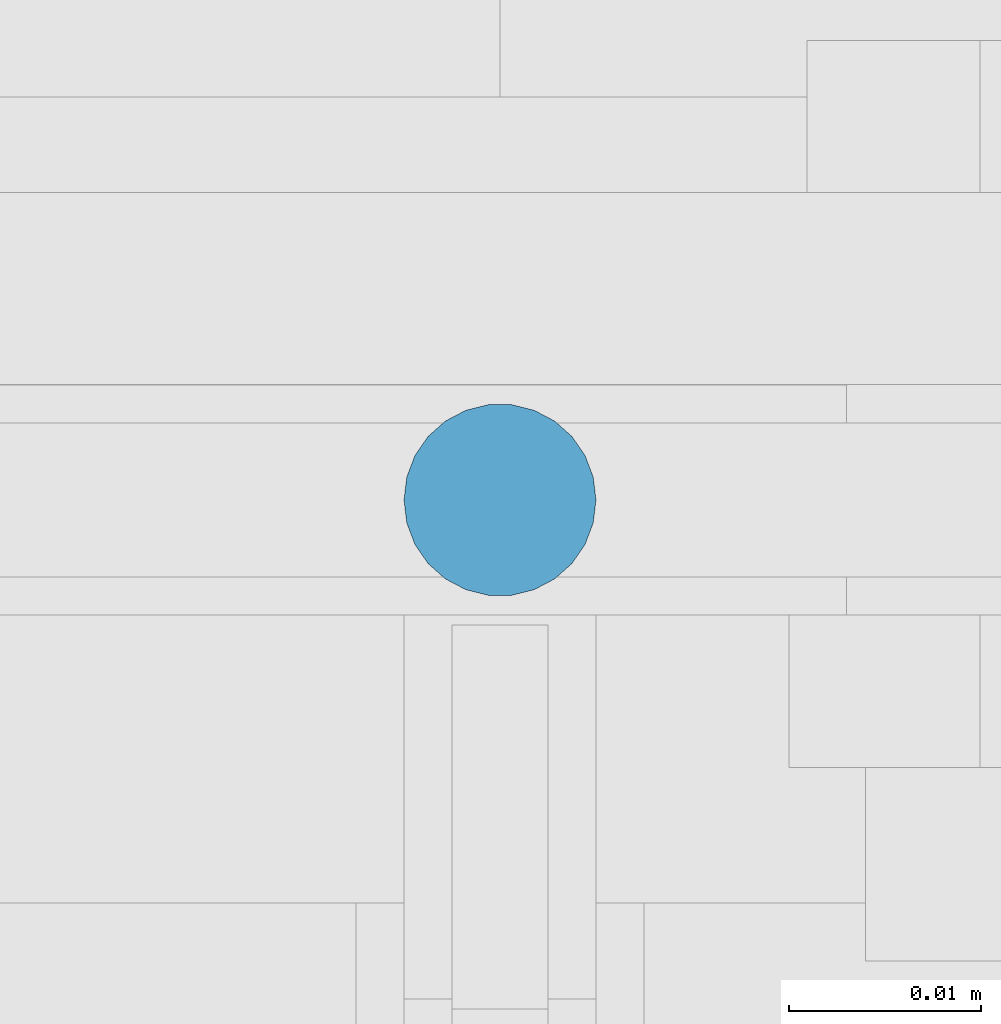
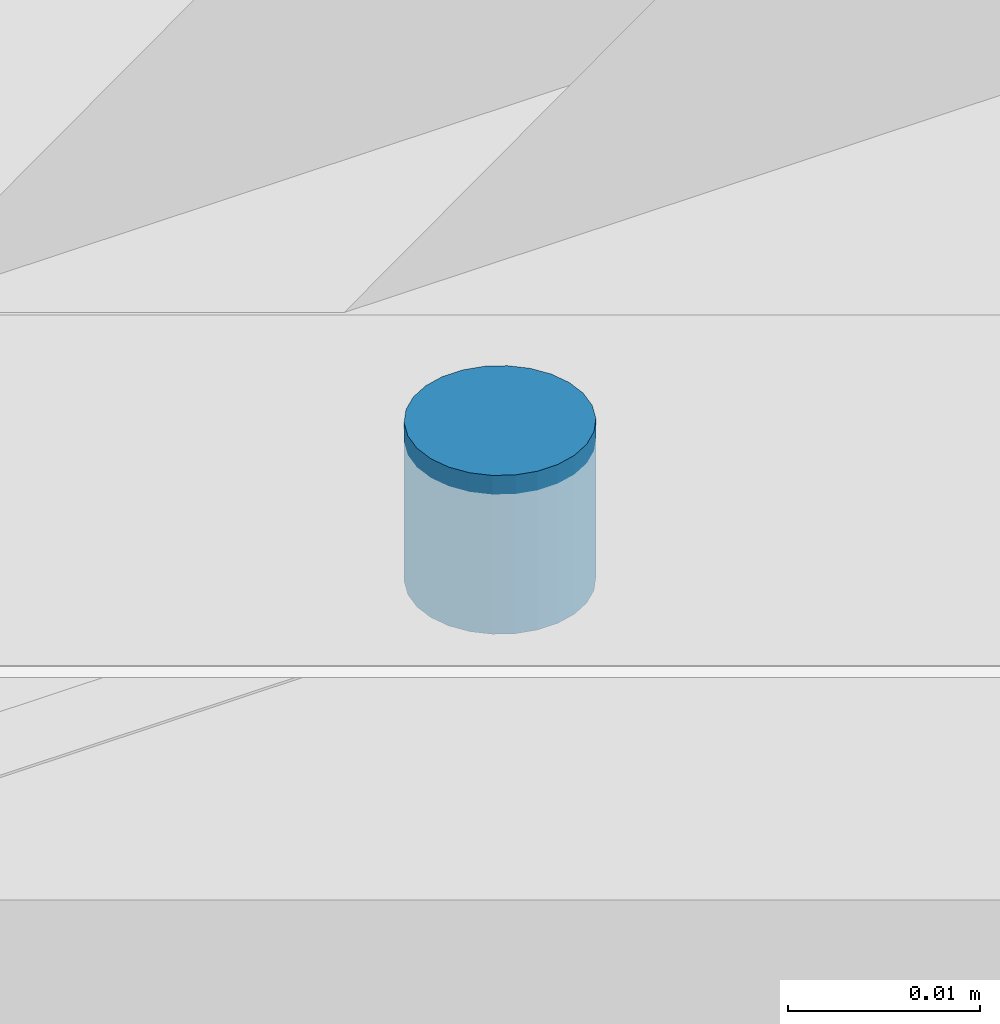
# One storey, part 273 of 362: 1 mechanical fastener.
"""IFC2X3 building model written with IfcOpenShell, lengths in millimetres."""

import ifcopenshell
import ifcopenshell.guid

model = None  # the IFC model being written
_history = None  # IfcOwnerHistory: only IFC2X3 demands one
_inside = {}  # id of a spatial element -> (the spatial element, [elements in it])
_under = {}  # id of a project, library or spatial element -> (it, [spatial elements below it])
_declared = {}  # id of a project -> (the project, [libraries it declares])
_typed = {}  # id of a type object -> (the type object, [elements of that type])
_made_of = {}  # id of a material, layer set ... -> (it, [elements and type objects made of it])


def new_model(schema):
    """Start an empty IFC model of exactly this schema.

    Asked for "IFC4X3", IfcOpenShell would pick the latest addendum, in which some entities
    have other attributes; the version numbers below select the first issue.
    IFC2X3 requires an IfcOwnerHistory on every rooted entity: one is made here for all.
    """
    global model, _history
    if schema == "IFC4X3":
        model = ifcopenshell.file(schema_version=(4, 3, 0, 0))
    else:
        model = ifcopenshell.file(schema=schema)
    _inside.clear()
    _under.clear()
    _declared.clear()
    _typed.clear()
    _made_of.clear()
    _history = None
    if model.schema == "IFC2X3":
        org = make("IfcOrganization", Name="unknown")
        user = make(
            "IfcPersonAndOrganization",
            ThePerson=make("IfcPerson", FamilyName="unknown"),
            TheOrganization=org,
        )
        app = make(
            "IfcApplication",
            ApplicationDeveloper=org,
            Version="unknown",
            ApplicationFullName="unknown",
            ApplicationIdentifier="unknown",
        )
        _history = make(
            "IfcOwnerHistory",
            OwningUser=user,
            OwningApplication=app,
            ChangeAction="ADDED",
            CreationDate=0,
        )
    return model


def make(cls, **values):
    """One entity of the class cls with the attributes given. An attribute that is None is left unset."""
    return model.create_entity(
        cls, **{name: value for name, value in values.items() if value is not None}
    )


def rooted(cls, **values):
    """An entity with a GlobalId (a new one), such as an element, a storey or a relation."""
    return make(cls, GlobalId=ifcopenshell.guid.new(), OwnerHistory=_history, **values)


def si_unit(unit_type, name, prefix=None):
    """IfcSIUnit, for example si_unit("LENGTHUNIT", "METRE", prefix="MILLI")."""
    return make("IfcSIUnit", UnitType=unit_type, Prefix=prefix, Name=name)


def assignment(units):
    """IfcUnitAssignment: the units of a project."""
    return None if units is None else make("IfcUnitAssignment", Units=units)


def point(xyz):
    """IfcCartesianPoint."""
    return None if xyz is None else make("IfcCartesianPoint", Coordinates=xyz)


def direction(xyz):
    """IfcDirection."""
    return None if xyz is None else make("IfcDirection", DirectionRatios=xyz)


def frame(location, z_axis=None, x_axis=None):
    """IfcAxis2Placement3D, a coordinate frame: its origin and axes. An axis left out is left unset."""
    return make(
        "IfcAxis2Placement3D",
        Location=point(location),
        Axis=direction(z_axis),
        RefDirection=direction(x_axis),
    )


def frame_2d(location, x_axis=None):
    """IfcAxis2Placement2D, a coordinate frame in the plane: its origin and x axis."""
    return make(
        "IfcAxis2Placement2D", Location=point(location), RefDirection=direction(x_axis)
    )


def origin_with_axes():
    """The frame at (0, 0, 0) with the z axis (0, 0, 1) and the x axis (1, 0, 0) written out."""
    return frame((0.0, 0.0, 0.0), z_axis=(0.0, 0.0, 1.0), x_axis=(1.0, 0.0, 0.0))


def origin_2d_with_axis():
    """The frame at (0, 0) in the plane with the x axis (1, 0) written out."""
    return frame_2d((0.0, 0.0), x_axis=(1.0, 0.0))


def place(relative_to, where):
    """IfcLocalPlacement: puts the frame where relative to a parent placement (None: the world)."""
    return make(
        "IfcLocalPlacement", PlacementRelTo=relative_to, RelativePlacement=where
    )


def context(
    kind, dimensions, precision=None, world=None, true_north=None, identifier=None
):
    """IfcGeometricRepresentationContext, for example the 3D "Model" context."""
    return make(
        "IfcGeometricRepresentationContext",
        ContextIdentifier=identifier,
        ContextType=kind,
        CoordinateSpaceDimension=dimensions,
        Precision=precision,
        WorldCoordinateSystem=world,
        TrueNorth=true_north,
    )


def subcontext(parent, identifier, kind, view, scale=None):
    """IfcGeometricRepresentationSubContext, for example "Body" below "Model"."""
    return make(
        "IfcGeometricRepresentationSubContext",
        ContextIdentifier=identifier,
        ContextType=kind,
        ParentContext=parent,
        TargetScale=scale,
        TargetView=view,
    )


def project(units=None, contexts=None):
    """IfcProject with its units and contexts."""
    return rooted(
        "IfcProject",
        Name="project",
        RepresentationContexts=contexts,
        UnitsInContext=assignment(units),
    )


def spatial(cls, under=None, at=None, **own):
    """A site, building, storey or space (cls), placed at a placement, below another one or the project."""
    s = rooted(cls, ObjectPlacement=at, **own)
    if under is not None:
        _under.setdefault(under.id(), (under, []))[1].append(s)
    return s


def profile(cls, at=None, kind="AREA", **sizes):
    """A parametric profile (cls). Its sizes go by their IFC names, for example OverallWidth=200.0."""
    return make(cls, ProfileType=kind, Position=at, **sizes)


def circle(**sizes):
    """IfcCircleProfileDef."""
    return profile("IfcCircleProfileDef", **sizes)


def extrude(swept, where, along, depth):
    """IfcExtrudedAreaSolid: the profile swept, set in the frame where, extruded along a direction by depth."""
    return make(
        "IfcExtrudedAreaSolid",
        SweptArea=swept,
        Position=where,
        ExtrudedDirection=direction(along),
        Depth=depth,
    )


def shape(context_of_items, identifier, shape_type, items):
    """IfcShapeRepresentation: the items that make up one representation, for example the "Body"."""
    return make(
        "IfcShapeRepresentation",
        ContextOfItems=context_of_items,
        RepresentationIdentifier=identifier,
        RepresentationType=shape_type,
        Items=items,
    )


def source(mapping_origin, context_of_items, identifier, shape_type, items):
    """IfcRepresentationMap: a shape defined once, which mapped items show again and again."""
    return make(
        "IfcRepresentationMap",
        MappingOrigin=mapping_origin,
        MappedRepresentation=shape(context_of_items, identifier, shape_type, items),
    )


def transform(
    local_origin,
    x_axis=None,
    y_axis=None,
    z_axis=None,
    scale=None,
    scale2=None,
    scale3=None,
    uniform=True,
):
    """IfcCartesianTransformationOperator3D, or its non-uniform kind. x_axis, y_axis, z_axis: its Axis1, 2, 3."""
    if uniform:
        return make(
            "IfcCartesianTransformationOperator3D",
            Axis1=direction(x_axis),
            Axis2=direction(y_axis),
            LocalOrigin=point(local_origin),
            Scale=scale,
            Axis3=direction(z_axis),
        )
    return make(
        "IfcCartesianTransformationOperator3DnonUniform",
        Axis1=direction(x_axis),
        Axis2=direction(y_axis),
        LocalOrigin=point(local_origin),
        Scale=scale,
        Axis3=direction(z_axis),
        Scale2=scale2,
        Scale3=scale3,
    )


def mapped(mapping_source, mapping_target):
    """IfcMappedItem: shows the shape of a source again, moved by a transform."""
    return make(
        "IfcMappedItem", MappingSource=mapping_source, MappingTarget=mapping_target
    )


def material(Name=None, Category=None):
    """IfcMaterial."""
    return make("IfcMaterial", Name=Name, Category=Category)


def made_of(thing, what):
    """Note that an element or type object is made of a material, layer set ...; save() writes the relation."""
    if what is not None:
        _made_of.setdefault(what.id(), (what, []))[1].append(thing)
    return thing


def type_object(cls, material=None, **own):
    """A type object (cls), such as IfcWallType, which elements share."""
    return made_of(rooted(cls, **own), material)


def element(
    cls,
    number,
    at=None,
    inside=None,
    cuts=None,
    type_object=None,
    material=None,
    context=None,
    identifier="Body",
    shape_type=None,
    held_by="IfcProductDefinitionShape",
    body=None,
    shapes=None,
    **own,
):
    """One element of the class cls, such as IfcWall. Its Tag is "e" and its number.

    at: its placement. inside: the storey or other place that contains it. cuts: it is an
    opening in that element (IfcRelVoidsElement). A single representation is given by context,
    identifier, shape_type and body (its items); several are given by shapes. held_by: the class
    of the entity that holds the representations. save() writes the other relations.
    """
    e = rooted(cls, Tag="e%d" % number, ObjectPlacement=at, **own)
    if body is not None:
        shapes = [shape(context, identifier, shape_type, body)]
    if shapes is not None:
        e.Representation = make(held_by, Representations=shapes)
    if inside is not None:
        _inside.setdefault(inside.id(), (inside, []))[1].append(e)
    if cuts is not None:
        rooted(
            "IfcRelVoidsElement", RelatingBuildingElement=cuts, RelatedOpeningElement=e
        )
    if type_object is not None:
        _typed.setdefault(type_object.id(), (type_object, []))[1].append(e)
    return made_of(e, material)


def aggregate(whole, parts):
    """IfcRelAggregates: a whole, such as a stair, and the parts it consists of."""
    return rooted("IfcRelAggregates", RelatingObject=whole, RelatedObjects=parts)


def save(model, path):
    """Write the relations noted so far, then the file.

    IfcRelAggregates (storeys below a building ...), IfcRelContainedInSpatialStructure (elements
    in a storey), IfcRelDefinesByType, IfcRelAssociatesMaterial and IfcRelDeclares: one each for
    every whole, place, type object, material and project.
    """
    for whole, parts in _under.values():
        aggregate(whole, parts)
    for where, things in _inside.values():
        rooted(
            "IfcRelContainedInSpatialStructure",
            RelatedElements=things,
            RelatingStructure=where,
        )
    for kind, things in _typed.values():
        rooted("IfcRelDefinesByType", RelatedObjects=things, RelatingType=kind)
    for what, things in _made_of.values():
        rooted("IfcRelAssociatesMaterial", RelatedObjects=things, RelatingMaterial=what)
    for by, libraries in _declared.values():
        rooted("IfcRelDeclares", RelatingContext=by, RelatedDefinitions=libraries)
    model.write(path)


model = new_model("IFC2X3")

# Units and contexts
model_context = context("Model", 3, precision=1e-05, world=origin_with_axes())
body_context = subcontext(model_context, "Body", "Model", "MODEL_VIEW")
ifc_project = project(units=[si_unit("LENGTHUNIT", "METRE", prefix="MILLI"), si_unit("AREAUNIT", "SQUARE_METRE"), si_unit("VOLUMEUNIT", "CUBIC_METRE"), si_unit("MASSUNIT", "GRAM", prefix="KILO"), si_unit("TIMEUNIT", "SECOND"), si_unit("PLANEANGLEUNIT", "RADIAN"), si_unit("SOLIDANGLEUNIT", "STERADIAN"), si_unit("THERMODYNAMICTEMPERATUREUNIT", "DEGREE_CELSIUS"), si_unit("LUMINOUSINTENSITYUNIT", "LUMEN")], contexts=[model_context])

# Site, building, storey
site_placement = place(None, origin_with_axes())
site = spatial("IfcSite", under=ifc_project, at=site_placement, Name="Undefined", CompositionType="ELEMENT")
building_placement = place(site_placement, origin_with_axes())
building = spatial("IfcBuilding", under=site, at=building_placement, Name="Undefined", CompositionType="ELEMENT")
storey_placement = place(building_placement, origin_with_axes())
storey = spatial("IfcBuildingStorey", under=building, at=storey_placement, Name="Undefined", CompositionType="ELEMENT", Elevation=0.0)

# Mechanical fastener
ifc_material = material(Name="6.8")
mechanical_fastener_type = type_object("IfcMechanicalFastenerType", Name="Bolt assembly")
shared_shape = source(origin_with_axes(), body_context, "Body", "SweptSolid", [
    extrude(circle(Radius=5.0, at=origin_2d_with_axis()), frame((0.0, 0.0, 0.0), z_axis=(0.0, 1.0, 0.0), x_axis=(1.0, 0.0, 0.0)), (0.0, 0.0, 1.0), 10.1),
])
mechanical_fastener_placement = place(storey_placement, frame((28880.0, 7.34107743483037e-08, -200.0), z_axis=(0.0, 1.0, 0.0), x_axis=(1.0, 0.0, 0.0)))
element("IfcMechanicalFastener", 1, at=mechanical_fastener_placement, inside=storey, type_object=mechanical_fastener_type, material=ifc_material, Name="Bolt assembly", NominalDiameter=8.0, NominalLength=10.0, context=body_context, shape_type="MappedRepresentation", body=[
    mapped(shared_shape, transform((0.0, 0.0, 0.0))),
])

save(model, "model.ifc")
